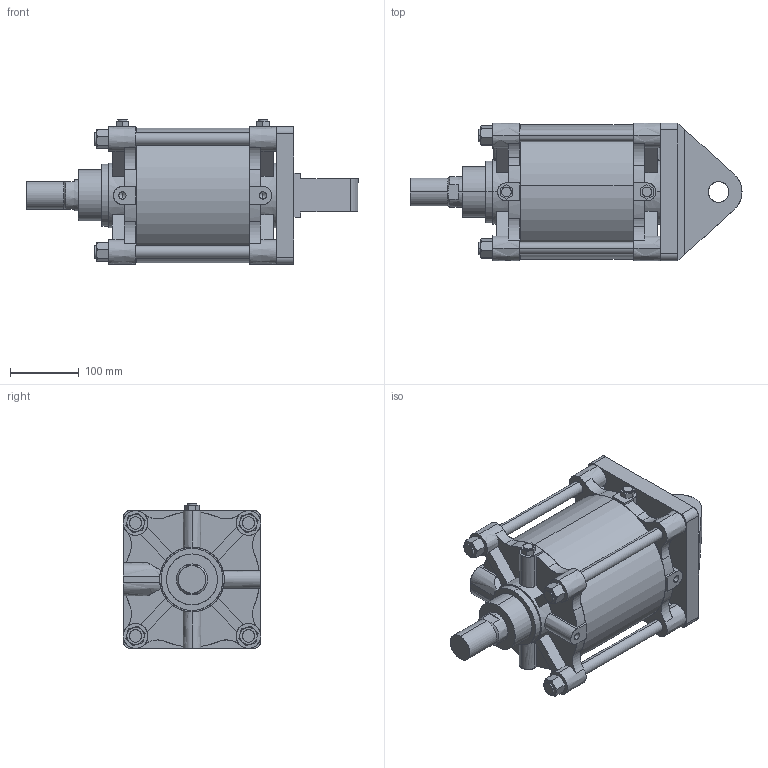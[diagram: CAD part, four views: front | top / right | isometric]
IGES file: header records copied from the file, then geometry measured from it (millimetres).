
Start section: SolidWorks IGES file using analytic representation for surfaces
Global section: file name: C:\Users\Toshiba\Desktop\A##2-180#-100-C.IGS; native system: SolidWorks 2014; preprocessor: SolidWorks 2014; author: Toshiba; date: 160331.145811; units: millimetre
Bounding box: 482 x 200 x 210 mm (x, y, z)
Surface area: 650704.3 mm2 (no closed solid volume)
Topology: 0 solids, 0 shells, 355 faces, 6751 edges, 6739 vertices
Faces by surface type: bspline 206, revolution 149
